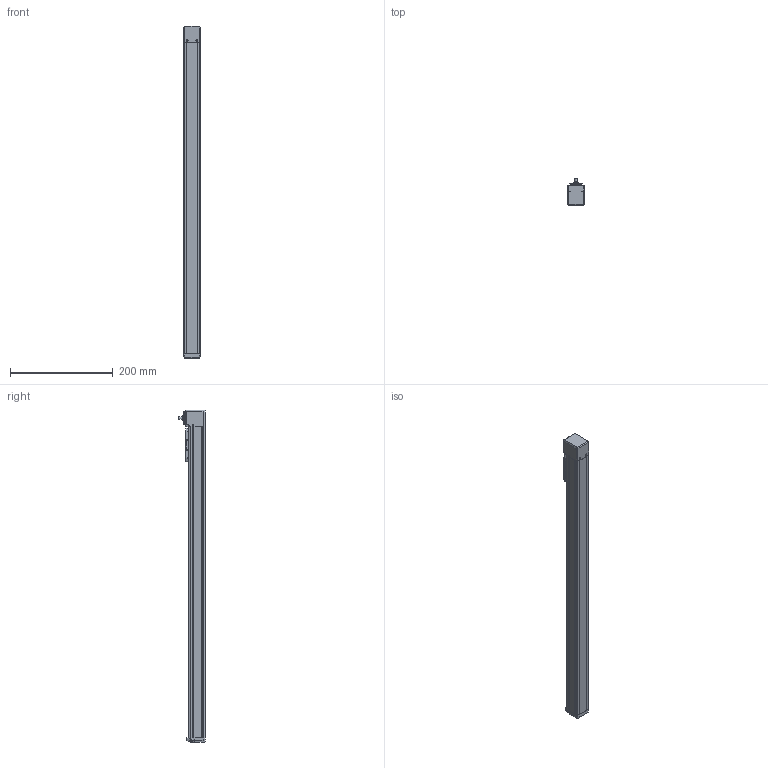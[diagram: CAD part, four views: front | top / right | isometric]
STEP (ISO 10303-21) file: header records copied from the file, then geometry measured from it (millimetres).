
FILE_DESCRIPTION(/* description */ ('STEP AP214'),/* implementation_level */ '2;1');
FILE_NAME(/* name */ 'MGTB 32 500(0)',/* time_stamp */ '2023-04-17T13:34:26+02:00',/* author */ ('License CC BY-ND 4.0'),/* organization */ ('CADENAS'),/* preprocessor_version */ 'ST-DEVELOPER v19.3',/* originating_system */ 'PARTsolutions',/* authorisation */ ' ');
FILE_SCHEMA (('AUTOMOTIVE_DESIGN {1 0 10303 214 3 1 1}'));
Length unit declared in the file: millimetre
Products named in the file (6): MGTB 32 500(0); MGTB 32 500_protection_strip; MGTB 32_carriage; MGTB 32_end_block; MGTB 32 500_profile; MGTB 32_drive_block
Assembly tree (5 placements, depth 2):
  MGTB 32 500(0)
    MGTB 32 500_protection_strip
    MGTB 32_carriage
    MGTB 32_end_block
    MGTB 32 500_profile
    MGTB 32_drive_block
Bounding box: 32 x 51.75 x 644.75 mm (x, y, z)
Volume: 617552.5 mm3; surface area: 149843.1 mm2
Topology: 5 solids, 5 shells, 664 faces, 1755 edges, 1129 vertices
Faces by surface type: plane 316, cylinder 171, cone 90, bspline 60, torus 25, sphere 2
Full cylindrical faces by diameter (mm): 1.155 x1, 1.567 x4, 1.755 x4, 1.8 x2, 2 x2, 2.3 x4, 2.459 x8, 2.46 x4, 2.5 x11, 3 x1, 3.8 x4, 4.5 x4, 5 x3, 7 x1, 7.5 x1, 9.6 x1, 19.5 x1, 25 x2
Entity records: 24513 total; most frequent: CARTESIAN_POINT 4239, DIRECTION 3359, ORIENTED_EDGE 3170, EDGE_CURVE 1585, AXIS2_PLACEMENT_3D 1204, VERTEX_POINT 1116, LINE 951, VECTOR 951
